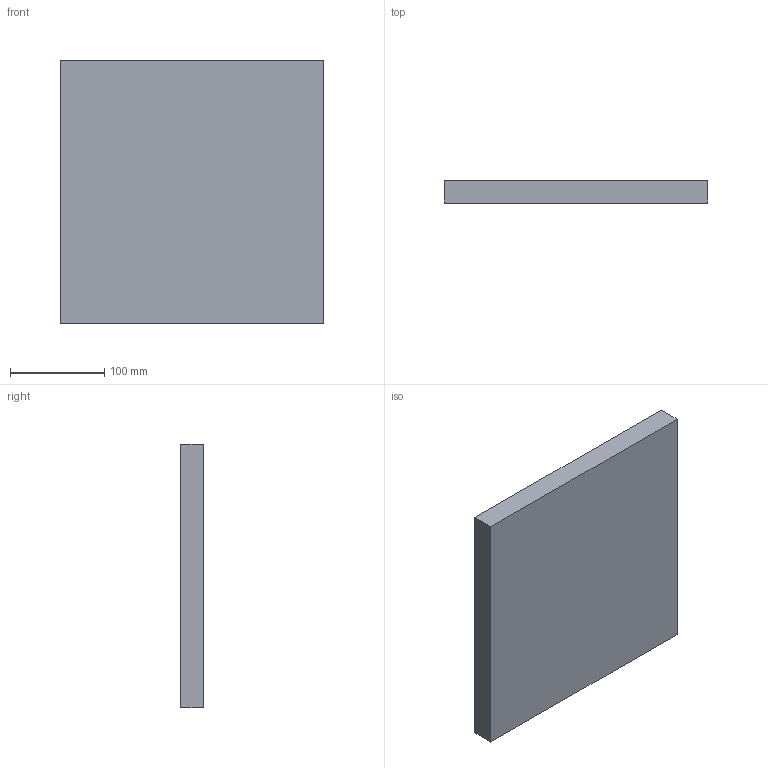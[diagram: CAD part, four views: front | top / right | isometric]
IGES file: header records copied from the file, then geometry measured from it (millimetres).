
Start section: SolidWorks IGES file using analytic representation for surfaces
Global section: file name: D:\3DS EMPRESA\ROKU-P34364-3D\ROKU-P34364-3D.IGS; native system: SolidWorks 2019; preprocessor: SolidWorks 2019; author: Carlos Corella; date: 210721.105244; units: millimetre
Bounding box: 280 x 24 x 280 mm (x, y, z)
Surface area: 184704 mm2 (no closed solid volume)
Topology: 0 solids, 0 shells, 11 faces, 48 edges, 48 vertices
Faces by surface type: bspline 11
